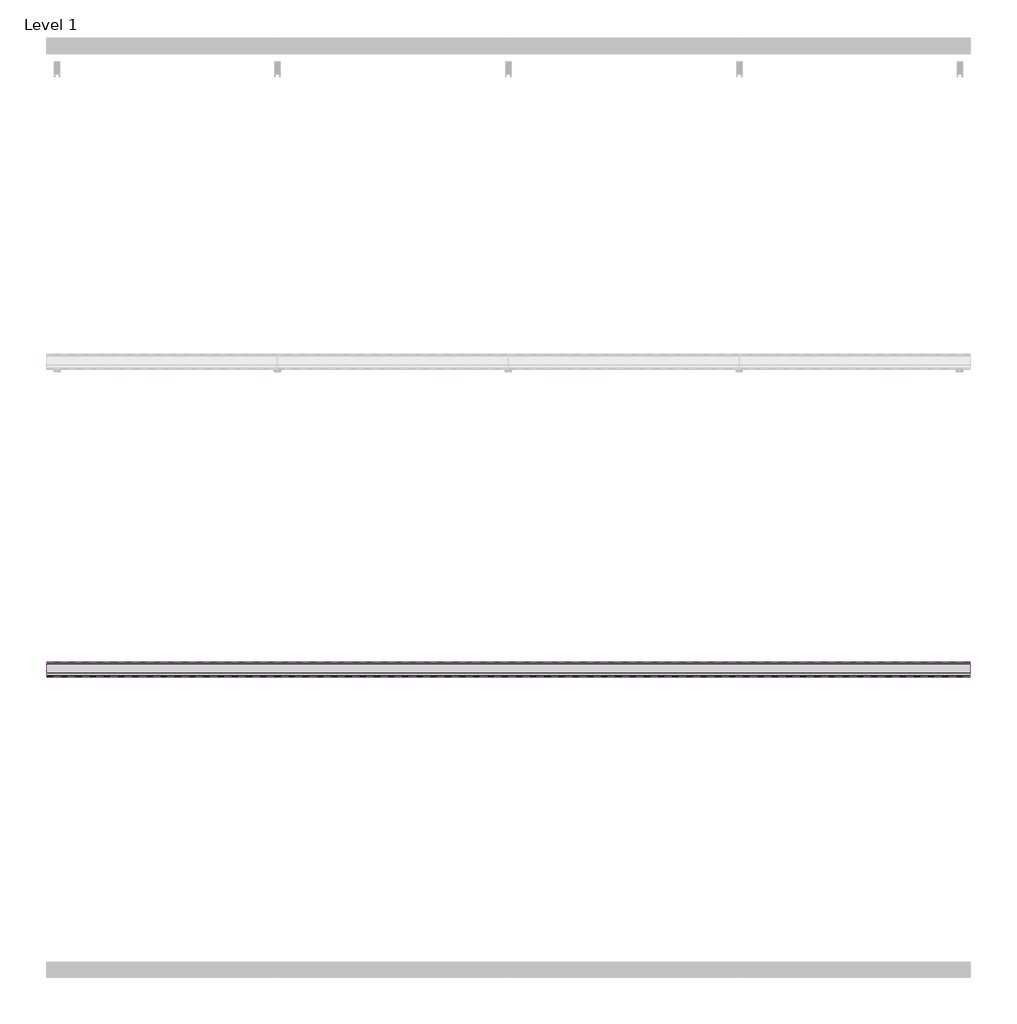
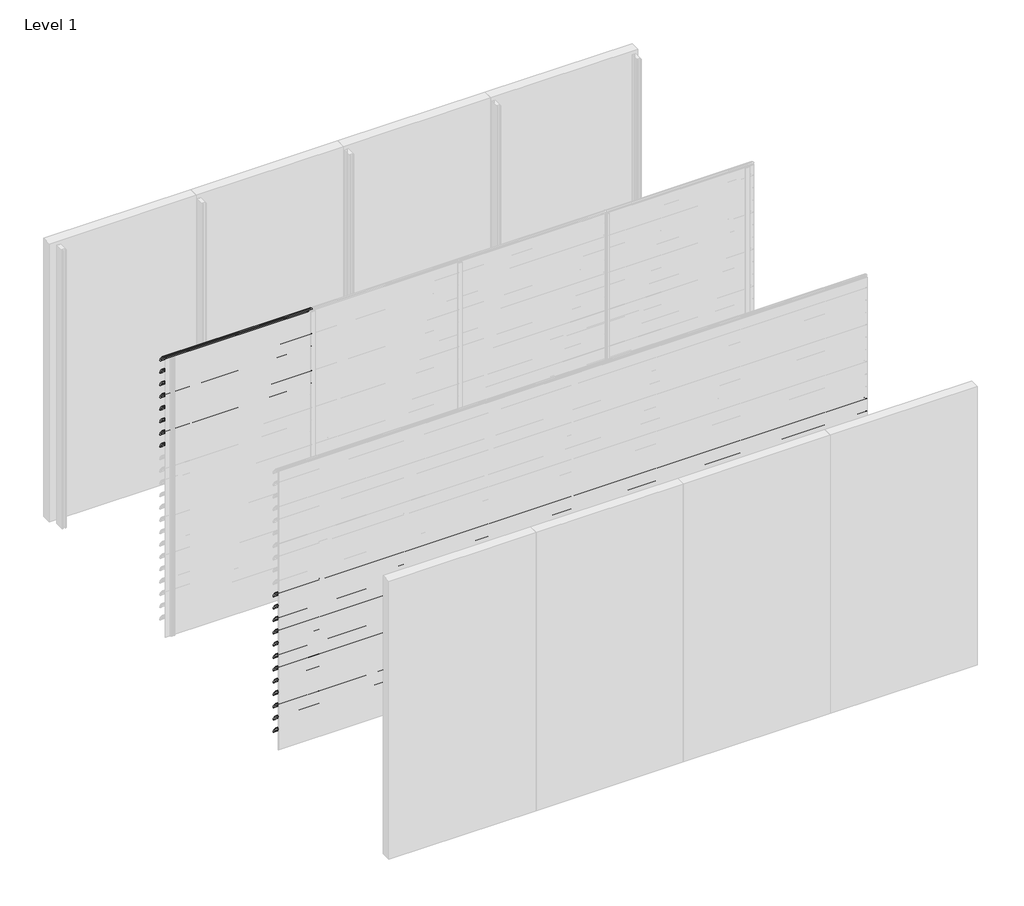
# One storey, part 31 of 57: 20 proxies.
"""IFC4 building model written with IfcOpenShell, lengths in millimetres."""

from ifc_helpers import new_model, si_unit, point, frame, frame_2d, origin, place, context, project, spatial, polyline, circle_curve, trimmed, segment, composite_curve, outline, extrude, element, save

model = new_model("IFC4")

# Units and contexts
model_context = context("Model", 3, world=origin())
ifc_project = project(units=[si_unit("LENGTHUNIT", "METRE", prefix="MILLI")], contexts=[model_context])

# Site, building, storey
site = spatial("IfcSite", under=ifc_project)
building = spatial("IfcBuilding", under=site)
storey = spatial("IfcBuildingStorey", under=building, Name="Level 1", Elevation=0.0)

# Proxies
placement = place(None, origin())
element("IfcBuildingElementProxy", 1, Name="Wall Sweeps", at=placement, inside=storey, context=model_context, shape_type="SweptSolid", body=[
    extrude(outline(composite_curve([segment(trimmed(circle_curve(frame_2d((-23993.7822526, 3016.4913792)), 4.2177474), [point((-23989.6985606, 3017.5462976))], [point((-23993.7822526, 3020.7091266))], False, "CARTESIAN"), True, "CONTINUOUS"), segment(trimmed(circle_curve(frame_2d((-24018.7150834, 2918.2536312)), 105.4456002), [point((-23993.7822526, 3020.7091266))], [point((-23971.7914298, 3012.6832099))], False, "CARTESIAN"), True, "CONTINUOUS"), segment(trimmed(circle_curve(frame_2d((-24061.7199745, 2864.0352476)), 173.7335887), [point((-23971.7914298, 3012.6832099))], [point((-23913.0720121, 2953.9637922))], False, "CARTESIAN"), True, "CONTINUOUS"), segment(trimmed(circle_curve(frame_2d((-24004.9297178, 2902.1860314)), 105.4456002), [point((-23913.0720121, 2953.9637922))], [point((-23903.6249616, 2931.4455765))], False, "CARTESIAN"), True, "CONTINUOUS"), segment(trimmed(circle_curve(frame_2d((-23907.809737, 2930.3307305)), 4.3307305), [point((-23903.6249616, 2931.4455765))], [point((-23909.0769196, 2926.189538))], False, "CARTESIAN"), True, "CONTINUOUS"), segment(polyline([(-23909.0769196, 2926.189538), (-23934.7401984, 2950.9722783)]), True, "CONTINUOUS"), segment(trimmed(circle_curve(frame_2d((-23931.3879574, 2953.2977626)), 4.079877), [point((-23934.7401984, 2950.9722783))], [point((-23930.7310597, 2957.3244091))], False, "CARTESIAN"), True, "CONTINUOUS"), segment(trimmed(circle_curve(frame_2d((-24014.6665585, 2935.2544323)), 86.7885467), [point((-23930.7310597, 2957.3244091))], [point((-23942.3028351, 2983.1683485))], True, "CARTESIAN"), True, "CONTINUOUS"), segment(polyline([(-23942.3028351, 2983.1683485), (-23940.7230099, 2985.9046861)]), True, "CONTINUOUS"), segment(trimmed(circle_curve(frame_2d((-24061.7199745, 2864.0352476)), 171.7335887), [point((-23940.7230099, 2985.9046861))], [point((-23972.7555872, 3010.9289618))], True, "CARTESIAN"), True, "CONTINUOUS"), segment(trimmed(circle_curve(frame_2d((-24018.7150834, 2918.2536312)), 103.4456002), [point((-23972.7555872, 3010.9289618))], [point((-23989.6985606, 3017.5462976))], True, "CARTESIAN"), True, "CONTINUOUS")], self_intersect=False)), frame((0.0, 0.0, 0.0), z_axis=(1.0, 0.0, 0.0), x_axis=(0.0, 1.0, 0.0)), (0.0, 0.0, 1.0), 1500.0),
])
element("IfcBuildingElementProxy", 2, Name="Wall Sweeps", at=placement, inside=storey, context=model_context, shape_type="SweptSolid", body=[
    extrude(outline(composite_curve([segment(trimmed(circle_curve(frame_2d((-23993.7822526, 2883.4913792)), 4.2177474), [point((-23989.6985606, 2884.5462976))], [point((-23993.7822526, 2887.7091266))], False, "CARTESIAN"), True, "CONTINUOUS"), segment(trimmed(circle_curve(frame_2d((-24018.7150834, 2785.2536312)), 105.4456002), [point((-23993.7822526, 2887.7091266))], [point((-23971.7914298, 2879.6832099))], False, "CARTESIAN"), True, "CONTINUOUS"), segment(trimmed(circle_curve(frame_2d((-24061.7199745, 2731.0352476)), 173.7335887), [point((-23971.7914298, 2879.6832099))], [point((-23913.0720121, 2820.9637922))], False, "CARTESIAN"), True, "CONTINUOUS"), segment(trimmed(circle_curve(frame_2d((-24004.9297178, 2769.1860314)), 105.4456002), [point((-23913.0720121, 2820.9637922))], [point((-23903.6249616, 2798.4455765))], False, "CARTESIAN"), True, "CONTINUOUS"), segment(trimmed(circle_curve(frame_2d((-23907.809737, 2797.3307305)), 4.3307305), [point((-23903.6249616, 2798.4455765))], [point((-23909.0769196, 2793.189538))], False, "CARTESIAN"), True, "CONTINUOUS"), segment(polyline([(-23909.0769196, 2793.189538), (-23934.7401984, 2817.9722783)]), True, "CONTINUOUS"), segment(trimmed(circle_curve(frame_2d((-23931.3879574, 2820.2977626)), 4.079877), [point((-23934.7401984, 2817.9722783))], [point((-23930.7310597, 2824.3244091))], False, "CARTESIAN"), True, "CONTINUOUS"), segment(trimmed(circle_curve(frame_2d((-24014.6665585, 2802.2544323)), 86.7885467), [point((-23930.7310597, 2824.3244091))], [point((-23942.3028351, 2850.1683485))], True, "CARTESIAN"), True, "CONTINUOUS"), segment(polyline([(-23942.3028351, 2850.1683485), (-23940.7230099, 2852.9046861)]), True, "CONTINUOUS"), segment(trimmed(circle_curve(frame_2d((-24061.7199745, 2731.0352476)), 171.7335887), [point((-23940.7230099, 2852.9046861))], [point((-23972.7555872, 2877.9289618))], True, "CARTESIAN"), True, "CONTINUOUS"), segment(trimmed(circle_curve(frame_2d((-24018.7150834, 2785.2536312)), 103.4456002), [point((-23972.7555872, 2877.9289618))], [point((-23989.6985606, 2884.5462976))], True, "CARTESIAN"), True, "CONTINUOUS")], self_intersect=False)), frame((0.0, 0.0, 0.0), z_axis=(1.0, 0.0, 0.0), x_axis=(0.0, 1.0, 0.0)), (0.0, 0.0, 1.0), 1500.0),
])
element("IfcBuildingElementProxy", 3, Name="Wall Sweeps", at=placement, inside=storey, context=model_context, shape_type="SweptSolid", body=[
    extrude(outline(composite_curve([segment(trimmed(circle_curve(frame_2d((-23993.7822526, 2750.4913792)), 4.2177474), [point((-23989.6985606, 2751.5462976))], [point((-23993.7822526, 2754.7091266))], False, "CARTESIAN"), True, "CONTINUOUS"), segment(trimmed(circle_curve(frame_2d((-24018.7150834, 2652.2536312)), 105.4456002), [point((-23993.7822526, 2754.7091266))], [point((-23971.7914298, 2746.6832099))], False, "CARTESIAN"), True, "CONTINUOUS"), segment(trimmed(circle_curve(frame_2d((-24061.7199745, 2598.0352476)), 173.7335887), [point((-23971.7914298, 2746.6832099))], [point((-23913.0720121, 2687.9637922))], False, "CARTESIAN"), True, "CONTINUOUS"), segment(trimmed(circle_curve(frame_2d((-24004.9297178, 2636.1860314)), 105.4456002), [point((-23913.0720121, 2687.9637922))], [point((-23903.6249616, 2665.4455765))], False, "CARTESIAN"), True, "CONTINUOUS"), segment(trimmed(circle_curve(frame_2d((-23907.809737, 2664.3307305)), 4.3307305), [point((-23903.6249616, 2665.4455765))], [point((-23909.0769196, 2660.189538))], False, "CARTESIAN"), True, "CONTINUOUS"), segment(polyline([(-23909.0769196, 2660.189538), (-23934.7401984, 2684.9722783)]), True, "CONTINUOUS"), segment(trimmed(circle_curve(frame_2d((-23931.3879574, 2687.2977626)), 4.079877), [point((-23934.7401984, 2684.9722783))], [point((-23930.7310597, 2691.3244091))], False, "CARTESIAN"), True, "CONTINUOUS"), segment(trimmed(circle_curve(frame_2d((-24014.6665585, 2669.2544323)), 86.7885467), [point((-23930.7310597, 2691.3244091))], [point((-23942.3028351, 2717.1683485))], True, "CARTESIAN"), True, "CONTINUOUS"), segment(polyline([(-23942.3028351, 2717.1683485), (-23940.7230099, 2719.9046861)]), True, "CONTINUOUS"), segment(trimmed(circle_curve(frame_2d((-24061.7199745, 2598.0352476)), 171.7335887), [point((-23940.7230099, 2719.9046861))], [point((-23972.7555872, 2744.9289618))], True, "CARTESIAN"), True, "CONTINUOUS"), segment(trimmed(circle_curve(frame_2d((-24018.7150834, 2652.2536312)), 103.4456002), [point((-23972.7555872, 2744.9289618))], [point((-23989.6985606, 2751.5462976))], True, "CARTESIAN"), True, "CONTINUOUS")], self_intersect=False)), frame((0.0, 0.0, 0.0), z_axis=(1.0, 0.0, 0.0), x_axis=(0.0, 1.0, 0.0)), (0.0, 0.0, 1.0), 1500.0),
])
element("IfcBuildingElementProxy", 4, Name="Wall Sweeps", at=placement, inside=storey, context=model_context, shape_type="SweptSolid", body=[
    extrude(outline(composite_curve([segment(trimmed(circle_curve(frame_2d((-23993.7822526, 2617.4913792)), 4.2177474), [point((-23989.6985606, 2618.5462976))], [point((-23993.7822526, 2621.7091266))], False, "CARTESIAN"), True, "CONTINUOUS"), segment(trimmed(circle_curve(frame_2d((-24018.7150834, 2519.2536312)), 105.4456002), [point((-23993.7822526, 2621.7091266))], [point((-23971.7914298, 2613.6832099))], False, "CARTESIAN"), True, "CONTINUOUS"), segment(trimmed(circle_curve(frame_2d((-24061.7199745, 2465.0352476)), 173.7335887), [point((-23971.7914298, 2613.6832099))], [point((-23913.0720121, 2554.9637922))], False, "CARTESIAN"), True, "CONTINUOUS"), segment(trimmed(circle_curve(frame_2d((-24004.9297178, 2503.1860314)), 105.4456002), [point((-23913.0720121, 2554.9637922))], [point((-23903.6249616, 2532.4455765))], False, "CARTESIAN"), True, "CONTINUOUS"), segment(trimmed(circle_curve(frame_2d((-23907.809737, 2531.3307305)), 4.3307305), [point((-23903.6249616, 2532.4455765))], [point((-23909.0769196, 2527.189538))], False, "CARTESIAN"), True, "CONTINUOUS"), segment(polyline([(-23909.0769196, 2527.189538), (-23934.7401984, 2551.9722783)]), True, "CONTINUOUS"), segment(trimmed(circle_curve(frame_2d((-23931.3879574, 2554.2977626)), 4.079877), [point((-23934.7401984, 2551.9722783))], [point((-23930.7310597, 2558.3244091))], False, "CARTESIAN"), True, "CONTINUOUS"), segment(trimmed(circle_curve(frame_2d((-24014.6665585, 2536.2544323)), 86.7885467), [point((-23930.7310597, 2558.3244091))], [point((-23942.3028351, 2584.1683485))], True, "CARTESIAN"), True, "CONTINUOUS"), segment(polyline([(-23942.3028351, 2584.1683485), (-23940.7230099, 2586.9046861)]), True, "CONTINUOUS"), segment(trimmed(circle_curve(frame_2d((-24061.7199745, 2465.0352476)), 171.7335887), [point((-23940.7230099, 2586.9046861))], [point((-23972.7555872, 2611.9289618))], True, "CARTESIAN"), True, "CONTINUOUS"), segment(trimmed(circle_curve(frame_2d((-24018.7150834, 2519.2536312)), 103.4456002), [point((-23972.7555872, 2611.9289618))], [point((-23989.6985606, 2618.5462976))], True, "CARTESIAN"), True, "CONTINUOUS")], self_intersect=False)), frame((0.0, 0.0, 0.0), z_axis=(1.0, 0.0, 0.0), x_axis=(0.0, 1.0, 0.0)), (0.0, 0.0, 1.0), 1500.0),
])
element("IfcBuildingElementProxy", 5, Name="Wall Sweeps", at=placement, inside=storey, context=model_context, shape_type="SweptSolid", body=[
    extrude(outline(composite_curve([segment(trimmed(circle_curve(frame_2d((-23993.7822526, 2484.4913792)), 4.2177474), [point((-23989.6985606, 2485.5462976))], [point((-23993.7822526, 2488.7091266))], False, "CARTESIAN"), True, "CONTINUOUS"), segment(trimmed(circle_curve(frame_2d((-24018.7150834, 2386.2536312)), 105.4456002), [point((-23993.7822526, 2488.7091266))], [point((-23971.7914298, 2480.6832099))], False, "CARTESIAN"), True, "CONTINUOUS"), segment(trimmed(circle_curve(frame_2d((-24061.7199745, 2332.0352476)), 173.7335887), [point((-23971.7914298, 2480.6832099))], [point((-23913.0720121, 2421.9637922))], False, "CARTESIAN"), True, "CONTINUOUS"), segment(trimmed(circle_curve(frame_2d((-24004.9297178, 2370.1860314)), 105.4456002), [point((-23913.0720121, 2421.9637922))], [point((-23903.6249616, 2399.4455765))], False, "CARTESIAN"), True, "CONTINUOUS"), segment(trimmed(circle_curve(frame_2d((-23907.809737, 2398.3307305)), 4.3307305), [point((-23903.6249616, 2399.4455765))], [point((-23909.0769196, 2394.189538))], False, "CARTESIAN"), True, "CONTINUOUS"), segment(polyline([(-23909.0769196, 2394.189538), (-23934.7401984, 2418.9722783)]), True, "CONTINUOUS"), segment(trimmed(circle_curve(frame_2d((-23931.3879574, 2421.2977626)), 4.079877), [point((-23934.7401984, 2418.9722783))], [point((-23930.7310597, 2425.3244091))], False, "CARTESIAN"), True, "CONTINUOUS"), segment(trimmed(circle_curve(frame_2d((-24014.6665585, 2403.2544323)), 86.7885467), [point((-23930.7310597, 2425.3244091))], [point((-23942.3028351, 2451.1683485))], True, "CARTESIAN"), True, "CONTINUOUS"), segment(polyline([(-23942.3028351, 2451.1683485), (-23940.7230099, 2453.9046861)]), True, "CONTINUOUS"), segment(trimmed(circle_curve(frame_2d((-24061.7199745, 2332.0352476)), 171.7335887), [point((-23940.7230099, 2453.9046861))], [point((-23972.7555872, 2478.9289618))], True, "CARTESIAN"), True, "CONTINUOUS"), segment(trimmed(circle_curve(frame_2d((-24018.7150834, 2386.2536312)), 103.4456002), [point((-23972.7555872, 2478.9289618))], [point((-23989.6985606, 2485.5462976))], True, "CARTESIAN"), True, "CONTINUOUS")], self_intersect=False)), frame((0.0, 0.0, 0.0), z_axis=(1.0, 0.0, 0.0), x_axis=(0.0, 1.0, 0.0)), (0.0, 0.0, 1.0), 1500.0),
])
element("IfcBuildingElementProxy", 6, Name="Wall Sweeps", at=placement, inside=storey, context=model_context, shape_type="SweptSolid", body=[
    extrude(outline(composite_curve([segment(trimmed(circle_curve(frame_2d((-23993.7822526, 2351.4913792)), 4.2177474), [point((-23989.6985606, 2352.5462976))], [point((-23993.7822526, 2355.7091266))], False, "CARTESIAN"), True, "CONTINUOUS"), segment(trimmed(circle_curve(frame_2d((-24018.7150834, 2253.2536312)), 105.4456002), [point((-23993.7822526, 2355.7091266))], [point((-23971.7914298, 2347.6832099))], False, "CARTESIAN"), True, "CONTINUOUS"), segment(trimmed(circle_curve(frame_2d((-24061.7199745, 2199.0352476)), 173.7335887), [point((-23971.7914298, 2347.6832099))], [point((-23913.0720121, 2288.9637922))], False, "CARTESIAN"), True, "CONTINUOUS"), segment(trimmed(circle_curve(frame_2d((-24004.9297178, 2237.1860314)), 105.4456002), [point((-23913.0720121, 2288.9637922))], [point((-23903.6249616, 2266.4455765))], False, "CARTESIAN"), True, "CONTINUOUS"), segment(trimmed(circle_curve(frame_2d((-23907.809737, 2265.3307305)), 4.3307305), [point((-23903.6249616, 2266.4455765))], [point((-23909.0769196, 2261.189538))], False, "CARTESIAN"), True, "CONTINUOUS"), segment(polyline([(-23909.0769196, 2261.189538), (-23934.7401984, 2285.9722783)]), True, "CONTINUOUS"), segment(trimmed(circle_curve(frame_2d((-23931.3879574, 2288.2977626)), 4.079877), [point((-23934.7401984, 2285.9722783))], [point((-23930.7310597, 2292.3244091))], False, "CARTESIAN"), True, "CONTINUOUS"), segment(trimmed(circle_curve(frame_2d((-24014.6665585, 2270.2544323)), 86.7885467), [point((-23930.7310597, 2292.3244091))], [point((-23942.3028351, 2318.1683485))], True, "CARTESIAN"), True, "CONTINUOUS"), segment(polyline([(-23942.3028351, 2318.1683485), (-23940.7230099, 2320.9046861)]), True, "CONTINUOUS"), segment(trimmed(circle_curve(frame_2d((-24061.7199745, 2199.0352476)), 171.7335887), [point((-23940.7230099, 2320.9046861))], [point((-23972.7555872, 2345.9289618))], True, "CARTESIAN"), True, "CONTINUOUS"), segment(trimmed(circle_curve(frame_2d((-24018.7150834, 2253.2536312)), 103.4456002), [point((-23972.7555872, 2345.9289618))], [point((-23989.6985606, 2352.5462976))], True, "CARTESIAN"), True, "CONTINUOUS")], self_intersect=False)), frame((0.0, 0.0, 0.0), z_axis=(1.0, 0.0, 0.0), x_axis=(0.0, 1.0, 0.0)), (0.0, 0.0, 1.0), 1500.0),
])
element("IfcBuildingElementProxy", 7, Name="Wall Sweeps", at=placement, inside=storey, context=model_context, shape_type="SweptSolid", body=[
    extrude(outline(composite_curve([segment(trimmed(circle_curve(frame_2d((-23993.7822526, 2218.4913792)), 4.2177474), [point((-23989.6985606, 2219.5462976))], [point((-23993.7822526, 2222.7091266))], False, "CARTESIAN"), True, "CONTINUOUS"), segment(trimmed(circle_curve(frame_2d((-24018.7150834, 2120.2536312)), 105.4456002), [point((-23993.7822526, 2222.7091266))], [point((-23971.7914298, 2214.6832099))], False, "CARTESIAN"), True, "CONTINUOUS"), segment(trimmed(circle_curve(frame_2d((-24061.7199745, 2066.0352476)), 173.7335887), [point((-23971.7914298, 2214.6832099))], [point((-23913.0720121, 2155.9637922))], False, "CARTESIAN"), True, "CONTINUOUS"), segment(trimmed(circle_curve(frame_2d((-24004.9297178, 2104.1860314)), 105.4456002), [point((-23913.0720121, 2155.9637922))], [point((-23903.6249616, 2133.4455765))], False, "CARTESIAN"), True, "CONTINUOUS"), segment(trimmed(circle_curve(frame_2d((-23907.809737, 2132.3307305)), 4.3307305), [point((-23903.6249616, 2133.4455765))], [point((-23909.0769196, 2128.189538))], False, "CARTESIAN"), True, "CONTINUOUS"), segment(polyline([(-23909.0769196, 2128.189538), (-23934.7401984, 2152.9722783)]), True, "CONTINUOUS"), segment(trimmed(circle_curve(frame_2d((-23931.3879574, 2155.2977626)), 4.079877), [point((-23934.7401984, 2152.9722783))], [point((-23930.7310597, 2159.3244091))], False, "CARTESIAN"), True, "CONTINUOUS"), segment(trimmed(circle_curve(frame_2d((-24014.6665585, 2137.2544323)), 86.7885467), [point((-23930.7310597, 2159.3244091))], [point((-23942.3028351, 2185.1683485))], True, "CARTESIAN"), True, "CONTINUOUS"), segment(polyline([(-23942.3028351, 2185.1683485), (-23940.7230099, 2187.9046861)]), True, "CONTINUOUS"), segment(trimmed(circle_curve(frame_2d((-24061.7199745, 2066.0352476)), 171.7335887), [point((-23940.7230099, 2187.9046861))], [point((-23972.7555872, 2212.9289618))], True, "CARTESIAN"), True, "CONTINUOUS"), segment(trimmed(circle_curve(frame_2d((-24018.7150834, 2120.2536312)), 103.4456002), [point((-23972.7555872, 2212.9289618))], [point((-23989.6985606, 2219.5462976))], True, "CARTESIAN"), True, "CONTINUOUS")], self_intersect=False)), frame((0.0, 0.0, 0.0), z_axis=(1.0, 0.0, 0.0), x_axis=(0.0, 1.0, 0.0)), (0.0, 0.0, 1.0), 1500.0),
])
element("IfcBuildingElementProxy", 8, Name="Wall Sweeps", at=placement, inside=storey, context=model_context, shape_type="SweptSolid", body=[
    extrude(outline(composite_curve([segment(trimmed(circle_curve(frame_2d((-23993.7822526, 2085.4913792)), 4.2177474), [point((-23989.6985606, 2086.5462976))], [point((-23993.7822526, 2089.7091266))], False, "CARTESIAN"), True, "CONTINUOUS"), segment(trimmed(circle_curve(frame_2d((-24018.7150834, 1987.2536312)), 105.4456002), [point((-23993.7822526, 2089.7091266))], [point((-23971.7914298, 2081.6832099))], False, "CARTESIAN"), True, "CONTINUOUS"), segment(trimmed(circle_curve(frame_2d((-24061.7199745, 1933.0352476)), 173.7335887), [point((-23971.7914298, 2081.6832099))], [point((-23913.0720121, 2022.9637922))], False, "CARTESIAN"), True, "CONTINUOUS"), segment(trimmed(circle_curve(frame_2d((-24004.9297178, 1971.1860314)), 105.4456002), [point((-23913.0720121, 2022.9637922))], [point((-23903.6249616, 2000.4455765))], False, "CARTESIAN"), True, "CONTINUOUS"), segment(trimmed(circle_curve(frame_2d((-23907.809737, 1999.3307305)), 4.3307305), [point((-23903.6249616, 2000.4455765))], [point((-23909.0769196, 1995.189538))], False, "CARTESIAN"), True, "CONTINUOUS"), segment(polyline([(-23909.0769196, 1995.189538), (-23934.7401984, 2019.9722783)]), True, "CONTINUOUS"), segment(trimmed(circle_curve(frame_2d((-23931.3879574, 2022.2977626)), 4.079877), [point((-23934.7401984, 2019.9722783))], [point((-23930.7310597, 2026.3244091))], False, "CARTESIAN"), True, "CONTINUOUS"), segment(trimmed(circle_curve(frame_2d((-24014.6665585, 2004.2544323)), 86.7885467), [point((-23930.7310597, 2026.3244091))], [point((-23942.3028351, 2052.1683485))], True, "CARTESIAN"), True, "CONTINUOUS"), segment(polyline([(-23942.3028351, 2052.1683485), (-23940.7230099, 2054.9046861)]), True, "CONTINUOUS"), segment(trimmed(circle_curve(frame_2d((-24061.7199745, 1933.0352476)), 171.7335887), [point((-23940.7230099, 2054.9046861))], [point((-23972.7555872, 2079.9289618))], True, "CARTESIAN"), True, "CONTINUOUS"), segment(trimmed(circle_curve(frame_2d((-24018.7150834, 1987.2536312)), 103.4456002), [point((-23972.7555872, 2079.9289618))], [point((-23989.6985606, 2086.5462976))], True, "CARTESIAN"), True, "CONTINUOUS")], self_intersect=False)), frame((0.0, 0.0, 0.0), z_axis=(1.0, 0.0, 0.0), x_axis=(0.0, 1.0, 0.0)), (0.0, 0.0, 1.0), 1500.0),
])
element("IfcBuildingElementProxy", 9, Name="Wall Sweeps", at=placement, inside=storey, context=model_context, shape_type="SweptSolid", body=[
    extrude(outline(composite_curve([segment(trimmed(circle_curve(frame_2d((-25993.7822526, 1686.4913792)), 4.2177474), [point((-25989.6985606, 1687.5462976))], [point((-25993.7822526, 1690.7091266))], False, "CARTESIAN"), True, "CONTINUOUS"), segment(trimmed(circle_curve(frame_2d((-26018.7150834, 1588.2536312)), 105.4456002), [point((-25993.7822526, 1690.7091266))], [point((-25971.7914298, 1682.6832099))], False, "CARTESIAN"), True, "CONTINUOUS"), segment(trimmed(circle_curve(frame_2d((-26061.7199745, 1534.0352476)), 173.7335887), [point((-25971.7914298, 1682.6832099))], [point((-25913.0720121, 1623.9637922))], False, "CARTESIAN"), True, "CONTINUOUS"), segment(trimmed(circle_curve(frame_2d((-26004.9297178, 1572.1860314)), 105.4456002), [point((-25913.0720121, 1623.9637922))], [point((-25903.6249616, 1601.4455765))], False, "CARTESIAN"), True, "CONTINUOUS"), segment(trimmed(circle_curve(frame_2d((-25907.809737, 1600.3307305)), 4.3307305), [point((-25903.6249616, 1601.4455765))], [point((-25909.0769196, 1596.189538))], False, "CARTESIAN"), True, "CONTINUOUS"), segment(polyline([(-25909.0769196, 1596.189538), (-25934.7401984, 1620.9722783)]), True, "CONTINUOUS"), segment(trimmed(circle_curve(frame_2d((-25931.3879574, 1623.2977626)), 4.079877), [point((-25934.7401984, 1620.9722783))], [point((-25930.7310597, 1627.3244091))], False, "CARTESIAN"), True, "CONTINUOUS"), segment(trimmed(circle_curve(frame_2d((-26014.6665585, 1605.2544323)), 86.7885467), [point((-25930.7310597, 1627.3244091))], [point((-25942.3028351, 1653.1683485))], True, "CARTESIAN"), True, "CONTINUOUS"), segment(polyline([(-25942.3028351, 1653.1683485), (-25940.7230099, 1655.9046861)]), True, "CONTINUOUS"), segment(trimmed(circle_curve(frame_2d((-26061.7199745, 1534.0352476)), 171.7335887), [point((-25940.7230099, 1655.9046861))], [point((-25972.7555872, 1680.9289618))], True, "CARTESIAN"), True, "CONTINUOUS"), segment(trimmed(circle_curve(frame_2d((-26018.7150834, 1588.2536312)), 103.4456002), [point((-25972.7555872, 1680.9289618))], [point((-25989.6985606, 1687.5462976))], True, "CARTESIAN"), True, "CONTINUOUS")], self_intersect=False)), frame((0.0, 0.0, 0.0), z_axis=(1.0, 0.0, 0.0), x_axis=(0.0, 1.0, 0.0)), (0.0, 0.0, 1.0), 6000.0),
])
element("IfcBuildingElementProxy", 10, Name="Wall Sweeps", at=placement, inside=storey, context=model_context, shape_type="SweptSolid", body=[
    extrude(outline(composite_curve([segment(trimmed(circle_curve(frame_2d((-25993.7822526, 1553.4913792)), 4.2177474), [point((-25989.6985606, 1554.5462976))], [point((-25993.7822526, 1557.7091266))], False, "CARTESIAN"), True, "CONTINUOUS"), segment(trimmed(circle_curve(frame_2d((-26018.7150834, 1455.2536312)), 105.4456002), [point((-25993.7822526, 1557.7091266))], [point((-25971.7914298, 1549.6832099))], False, "CARTESIAN"), True, "CONTINUOUS"), segment(trimmed(circle_curve(frame_2d((-26061.7199745, 1401.0352476)), 173.7335887), [point((-25971.7914298, 1549.6832099))], [point((-25913.0720121, 1490.9637922))], False, "CARTESIAN"), True, "CONTINUOUS"), segment(trimmed(circle_curve(frame_2d((-26004.9297178, 1439.1860314)), 105.4456002), [point((-25913.0720121, 1490.9637922))], [point((-25903.6249616, 1468.4455765))], False, "CARTESIAN"), True, "CONTINUOUS"), segment(trimmed(circle_curve(frame_2d((-25907.809737, 1467.3307305)), 4.3307305), [point((-25903.6249616, 1468.4455765))], [point((-25909.0769196, 1463.189538))], False, "CARTESIAN"), True, "CONTINUOUS"), segment(polyline([(-25909.0769196, 1463.189538), (-25934.7401984, 1487.9722783)]), True, "CONTINUOUS"), segment(trimmed(circle_curve(frame_2d((-25931.3879574, 1490.2977626)), 4.079877), [point((-25934.7401984, 1487.9722783))], [point((-25930.7310597, 1494.3244091))], False, "CARTESIAN"), True, "CONTINUOUS"), segment(trimmed(circle_curve(frame_2d((-26014.6665585, 1472.2544323)), 86.7885467), [point((-25930.7310597, 1494.3244091))], [point((-25942.3028351, 1520.1683485))], True, "CARTESIAN"), True, "CONTINUOUS"), segment(polyline([(-25942.3028351, 1520.1683485), (-25940.7230099, 1522.9046861)]), True, "CONTINUOUS"), segment(trimmed(circle_curve(frame_2d((-26061.7199745, 1401.0352476)), 171.7335887), [point((-25940.7230099, 1522.9046861))], [point((-25972.7555872, 1547.9289618))], True, "CARTESIAN"), True, "CONTINUOUS"), segment(trimmed(circle_curve(frame_2d((-26018.7150834, 1455.2536312)), 103.4456002), [point((-25972.7555872, 1547.9289618))], [point((-25989.6985606, 1554.5462976))], True, "CARTESIAN"), True, "CONTINUOUS")], self_intersect=False)), frame((0.0, 0.0, 0.0), z_axis=(1.0, 0.0, 0.0), x_axis=(0.0, 1.0, 0.0)), (0.0, 0.0, 1.0), 6000.0),
])
element("IfcBuildingElementProxy", 11, Name="Wall Sweeps", at=placement, inside=storey, context=model_context, shape_type="SweptSolid", body=[
    extrude(outline(composite_curve([segment(trimmed(circle_curve(frame_2d((-25993.7822526, 1420.4913792)), 4.2177474), [point((-25989.6985606, 1421.5462976))], [point((-25993.7822526, 1424.7091266))], False, "CARTESIAN"), True, "CONTINUOUS"), segment(trimmed(circle_curve(frame_2d((-26018.7150834, 1322.2536312)), 105.4456002), [point((-25993.7822526, 1424.7091266))], [point((-25971.7914298, 1416.6832099))], False, "CARTESIAN"), True, "CONTINUOUS"), segment(trimmed(circle_curve(frame_2d((-26061.7199745, 1268.0352476)), 173.7335887), [point((-25971.7914298, 1416.6832099))], [point((-25913.0720121, 1357.9637922))], False, "CARTESIAN"), True, "CONTINUOUS"), segment(trimmed(circle_curve(frame_2d((-26004.9297178, 1306.1860314)), 105.4456002), [point((-25913.0720121, 1357.9637922))], [point((-25903.6249616, 1335.4455765))], False, "CARTESIAN"), True, "CONTINUOUS"), segment(trimmed(circle_curve(frame_2d((-25907.809737, 1334.3307305)), 4.3307305), [point((-25903.6249616, 1335.4455765))], [point((-25909.0769196, 1330.189538))], False, "CARTESIAN"), True, "CONTINUOUS"), segment(polyline([(-25909.0769196, 1330.189538), (-25934.7401984, 1354.9722783)]), True, "CONTINUOUS"), segment(trimmed(circle_curve(frame_2d((-25931.3879574, 1357.2977626)), 4.079877), [point((-25934.7401984, 1354.9722783))], [point((-25930.7310597, 1361.3244091))], False, "CARTESIAN"), True, "CONTINUOUS"), segment(trimmed(circle_curve(frame_2d((-26014.6665585, 1339.2544323)), 86.7885467), [point((-25930.7310597, 1361.3244091))], [point((-25942.3028351, 1387.1683485))], True, "CARTESIAN"), True, "CONTINUOUS"), segment(polyline([(-25942.3028351, 1387.1683485), (-25940.7230099, 1389.9046861)]), True, "CONTINUOUS"), segment(trimmed(circle_curve(frame_2d((-26061.7199745, 1268.0352476)), 171.7335887), [point((-25940.7230099, 1389.9046861))], [point((-25972.7555872, 1414.9289618))], True, "CARTESIAN"), True, "CONTINUOUS"), segment(trimmed(circle_curve(frame_2d((-26018.7150834, 1322.2536312)), 103.4456002), [point((-25972.7555872, 1414.9289618))], [point((-25989.6985606, 1421.5462976))], True, "CARTESIAN"), True, "CONTINUOUS")], self_intersect=False)), frame((0.0, 0.0, 0.0), z_axis=(1.0, 0.0, 0.0), x_axis=(0.0, 1.0, 0.0)), (0.0, 0.0, 1.0), 6000.0),
])
element("IfcBuildingElementProxy", 12, Name="Wall Sweeps", at=placement, inside=storey, context=model_context, shape_type="SweptSolid", body=[
    extrude(outline(composite_curve([segment(trimmed(circle_curve(frame_2d((-25993.7822526, 1287.4913792)), 4.2177474), [point((-25989.6985606, 1288.5462976))], [point((-25993.7822526, 1291.7091266))], False, "CARTESIAN"), True, "CONTINUOUS"), segment(trimmed(circle_curve(frame_2d((-26018.7150834, 1189.2536312)), 105.4456002), [point((-25993.7822526, 1291.7091266))], [point((-25971.7914298, 1283.6832099))], False, "CARTESIAN"), True, "CONTINUOUS"), segment(trimmed(circle_curve(frame_2d((-26061.7199745, 1135.0352476)), 173.7335887), [point((-25971.7914298, 1283.6832099))], [point((-25913.0720121, 1224.9637922))], False, "CARTESIAN"), True, "CONTINUOUS"), segment(trimmed(circle_curve(frame_2d((-26004.9297178, 1173.1860314)), 105.4456002), [point((-25913.0720121, 1224.9637922))], [point((-25903.6249616, 1202.4455765))], False, "CARTESIAN"), True, "CONTINUOUS"), segment(trimmed(circle_curve(frame_2d((-25907.809737, 1201.3307305)), 4.3307305), [point((-25903.6249616, 1202.4455765))], [point((-25909.0769196, 1197.189538))], False, "CARTESIAN"), True, "CONTINUOUS"), segment(polyline([(-25909.0769196, 1197.189538), (-25934.7401984, 1221.9722783)]), True, "CONTINUOUS"), segment(trimmed(circle_curve(frame_2d((-25931.3879574, 1224.2977626)), 4.079877), [point((-25934.7401984, 1221.9722783))], [point((-25930.7310597, 1228.3244091))], False, "CARTESIAN"), True, "CONTINUOUS"), segment(trimmed(circle_curve(frame_2d((-26014.6665585, 1206.2544323)), 86.7885467), [point((-25930.7310597, 1228.3244091))], [point((-25942.3028351, 1254.1683485))], True, "CARTESIAN"), True, "CONTINUOUS"), segment(polyline([(-25942.3028351, 1254.1683485), (-25940.7230099, 1256.9046861)]), True, "CONTINUOUS"), segment(trimmed(circle_curve(frame_2d((-26061.7199745, 1135.0352476)), 171.7335887), [point((-25940.7230099, 1256.9046861))], [point((-25972.7555872, 1281.9289618))], True, "CARTESIAN"), True, "CONTINUOUS"), segment(trimmed(circle_curve(frame_2d((-26018.7150834, 1189.2536312)), 103.4456002), [point((-25972.7555872, 1281.9289618))], [point((-25989.6985606, 1288.5462976))], True, "CARTESIAN"), True, "CONTINUOUS")], self_intersect=False)), frame((0.0, 0.0, 0.0), z_axis=(1.0, 0.0, 0.0), x_axis=(0.0, 1.0, 0.0)), (0.0, 0.0, 1.0), 6000.0),
])
element("IfcBuildingElementProxy", 13, Name="Wall Sweeps", at=placement, inside=storey, context=model_context, shape_type="SweptSolid", body=[
    extrude(outline(composite_curve([segment(trimmed(circle_curve(frame_2d((-25993.7822526, 1154.4913792)), 4.2177474), [point((-25989.6985606, 1155.5462976))], [point((-25993.7822526, 1158.7091266))], False, "CARTESIAN"), True, "CONTINUOUS"), segment(trimmed(circle_curve(frame_2d((-26018.7150834, 1056.2536312)), 105.4456002), [point((-25993.7822526, 1158.7091266))], [point((-25971.7914298, 1150.6832099))], False, "CARTESIAN"), True, "CONTINUOUS"), segment(trimmed(circle_curve(frame_2d((-26061.7199745, 1002.0352476)), 173.7335887), [point((-25971.7914298, 1150.6832099))], [point((-25913.0720121, 1091.9637922))], False, "CARTESIAN"), True, "CONTINUOUS"), segment(trimmed(circle_curve(frame_2d((-26004.9297178, 1040.1860314)), 105.4456002), [point((-25913.0720121, 1091.9637922))], [point((-25903.6249616, 1069.4455765))], False, "CARTESIAN"), True, "CONTINUOUS"), segment(trimmed(circle_curve(frame_2d((-25907.809737, 1068.3307305)), 4.3307305), [point((-25903.6249616, 1069.4455765))], [point((-25909.0769196, 1064.189538))], False, "CARTESIAN"), True, "CONTINUOUS"), segment(polyline([(-25909.0769196, 1064.189538), (-25934.7401984, 1088.9722783)]), True, "CONTINUOUS"), segment(trimmed(circle_curve(frame_2d((-25931.3879574, 1091.2977626)), 4.079877), [point((-25934.7401984, 1088.9722783))], [point((-25930.7310597, 1095.3244091))], False, "CARTESIAN"), True, "CONTINUOUS"), segment(trimmed(circle_curve(frame_2d((-26014.6665585, 1073.2544323)), 86.7885467), [point((-25930.7310597, 1095.3244091))], [point((-25942.3028351, 1121.1683485))], True, "CARTESIAN"), True, "CONTINUOUS"), segment(polyline([(-25942.3028351, 1121.1683485), (-25940.7230099, 1123.9046861)]), True, "CONTINUOUS"), segment(trimmed(circle_curve(frame_2d((-26061.7199745, 1002.0352476)), 171.7335887), [point((-25940.7230099, 1123.9046861))], [point((-25972.7555872, 1148.9289618))], True, "CARTESIAN"), True, "CONTINUOUS"), segment(trimmed(circle_curve(frame_2d((-26018.7150834, 1056.2536312)), 103.4456002), [point((-25972.7555872, 1148.9289618))], [point((-25989.6985606, 1155.5462976))], True, "CARTESIAN"), True, "CONTINUOUS")], self_intersect=False)), frame((0.0, 0.0, 0.0), z_axis=(1.0, 0.0, 0.0), x_axis=(0.0, 1.0, 0.0)), (0.0, 0.0, 1.0), 6000.0),
])
element("IfcBuildingElementProxy", 14, Name="Wall Sweeps", at=placement, inside=storey, context=model_context, shape_type="SweptSolid", body=[
    extrude(outline(composite_curve([segment(trimmed(circle_curve(frame_2d((-25993.7822526, 1021.4913792)), 4.2177474), [point((-25989.6985606, 1022.5462976))], [point((-25993.7822526, 1025.7091266))], False, "CARTESIAN"), True, "CONTINUOUS"), segment(trimmed(circle_curve(frame_2d((-26018.7150834, 923.2536312)), 105.4456002), [point((-25993.7822526, 1025.7091266))], [point((-25971.7914298, 1017.6832099))], False, "CARTESIAN"), True, "CONTINUOUS"), segment(trimmed(circle_curve(frame_2d((-26061.7199745, 869.0352476)), 173.7335887), [point((-25971.7914298, 1017.6832099))], [point((-25913.0720121, 958.9637922))], False, "CARTESIAN"), True, "CONTINUOUS"), segment(trimmed(circle_curve(frame_2d((-26004.9297178, 907.1860314)), 105.4456002), [point((-25913.0720121, 958.9637922))], [point((-25903.6249616, 936.4455765))], False, "CARTESIAN"), True, "CONTINUOUS"), segment(trimmed(circle_curve(frame_2d((-25907.809737, 935.3307305)), 4.3307305), [point((-25903.6249616, 936.4455765))], [point((-25909.0769196, 931.189538))], False, "CARTESIAN"), True, "CONTINUOUS"), segment(polyline([(-25909.0769196, 931.189538), (-25934.7401984, 955.9722783)]), True, "CONTINUOUS"), segment(trimmed(circle_curve(frame_2d((-25931.3879574, 958.2977626)), 4.079877), [point((-25934.7401984, 955.9722783))], [point((-25930.7310597, 962.3244091))], False, "CARTESIAN"), True, "CONTINUOUS"), segment(trimmed(circle_curve(frame_2d((-26014.6665585, 940.2544323)), 86.7885467), [point((-25930.7310597, 962.3244091))], [point((-25942.3028351, 988.1683485))], True, "CARTESIAN"), True, "CONTINUOUS"), segment(polyline([(-25942.3028351, 988.1683485), (-25940.7230099, 990.9046861)]), True, "CONTINUOUS"), segment(trimmed(circle_curve(frame_2d((-26061.7199745, 869.0352476)), 171.7335887), [point((-25940.7230099, 990.9046861))], [point((-25972.7555872, 1015.9289618))], True, "CARTESIAN"), True, "CONTINUOUS"), segment(trimmed(circle_curve(frame_2d((-26018.7150834, 923.2536312)), 103.4456002), [point((-25972.7555872, 1015.9289618))], [point((-25989.6985606, 1022.5462976))], True, "CARTESIAN"), True, "CONTINUOUS")], self_intersect=False)), frame((0.0, 0.0, 0.0), z_axis=(1.0, 0.0, 0.0), x_axis=(0.0, 1.0, 0.0)), (0.0, 0.0, 1.0), 6000.0),
])
element("IfcBuildingElementProxy", 15, Name="Wall Sweeps", at=placement, inside=storey, context=model_context, shape_type="SweptSolid", body=[
    extrude(outline(composite_curve([segment(trimmed(circle_curve(frame_2d((-25993.7822526, 888.4913792)), 4.2177474), [point((-25989.6985606, 889.5462976))], [point((-25993.7822526, 892.7091266))], False, "CARTESIAN"), True, "CONTINUOUS"), segment(trimmed(circle_curve(frame_2d((-26018.7150834, 790.2536312)), 105.4456002), [point((-25993.7822526, 892.7091266))], [point((-25971.7914298, 884.6832099))], False, "CARTESIAN"), True, "CONTINUOUS"), segment(trimmed(circle_curve(frame_2d((-26061.7199745, 736.0352476)), 173.7335887), [point((-25971.7914298, 884.6832099))], [point((-25913.0720121, 825.9637922))], False, "CARTESIAN"), True, "CONTINUOUS"), segment(trimmed(circle_curve(frame_2d((-26004.9297178, 774.1860314)), 105.4456002), [point((-25913.0720121, 825.9637922))], [point((-25903.6249616, 803.4455765))], False, "CARTESIAN"), True, "CONTINUOUS"), segment(trimmed(circle_curve(frame_2d((-25907.809737, 802.3307305)), 4.3307305), [point((-25903.6249616, 803.4455765))], [point((-25909.0769196, 798.189538))], False, "CARTESIAN"), True, "CONTINUOUS"), segment(polyline([(-25909.0769196, 798.189538), (-25934.7401984, 822.9722783)]), True, "CONTINUOUS"), segment(trimmed(circle_curve(frame_2d((-25931.3879574, 825.2977626)), 4.079877), [point((-25934.7401984, 822.9722783))], [point((-25930.7310597, 829.3244091))], False, "CARTESIAN"), True, "CONTINUOUS"), segment(trimmed(circle_curve(frame_2d((-26014.6665585, 807.2544323)), 86.7885467), [point((-25930.7310597, 829.3244091))], [point((-25942.3028351, 855.1683485))], True, "CARTESIAN"), True, "CONTINUOUS"), segment(polyline([(-25942.3028351, 855.1683485), (-25940.7230099, 857.9046861)]), True, "CONTINUOUS"), segment(trimmed(circle_curve(frame_2d((-26061.7199745, 736.0352476)), 171.7335887), [point((-25940.7230099, 857.9046861))], [point((-25972.7555872, 882.9289618))], True, "CARTESIAN"), True, "CONTINUOUS"), segment(trimmed(circle_curve(frame_2d((-26018.7150834, 790.2536312)), 103.4456002), [point((-25972.7555872, 882.9289618))], [point((-25989.6985606, 889.5462976))], True, "CARTESIAN"), True, "CONTINUOUS")], self_intersect=False)), frame((0.0, 0.0, 0.0), z_axis=(1.0, 0.0, 0.0), x_axis=(0.0, 1.0, 0.0)), (0.0, 0.0, 1.0), 6000.0),
])
element("IfcBuildingElementProxy", 16, Name="Wall Sweeps", at=placement, inside=storey, context=model_context, shape_type="SweptSolid", body=[
    extrude(outline(composite_curve([segment(trimmed(circle_curve(frame_2d((-25993.7822526, 755.4913792)), 4.2177474), [point((-25989.6985606, 756.5462976))], [point((-25993.7822526, 759.7091266))], False, "CARTESIAN"), True, "CONTINUOUS"), segment(trimmed(circle_curve(frame_2d((-26018.7150834, 657.2536312)), 105.4456002), [point((-25993.7822526, 759.7091266))], [point((-25971.7914298, 751.6832099))], False, "CARTESIAN"), True, "CONTINUOUS"), segment(trimmed(circle_curve(frame_2d((-26061.7199745, 603.0352476)), 173.7335887), [point((-25971.7914298, 751.6832099))], [point((-25913.0720121, 692.9637922))], False, "CARTESIAN"), True, "CONTINUOUS"), segment(trimmed(circle_curve(frame_2d((-26004.9297178, 641.1860314)), 105.4456002), [point((-25913.0720121, 692.9637922))], [point((-25903.6249616, 670.4455765))], False, "CARTESIAN"), True, "CONTINUOUS"), segment(trimmed(circle_curve(frame_2d((-25907.809737, 669.3307305)), 4.3307305), [point((-25903.6249616, 670.4455765))], [point((-25909.0769196, 665.189538))], False, "CARTESIAN"), True, "CONTINUOUS"), segment(polyline([(-25909.0769196, 665.189538), (-25934.7401984, 689.9722783)]), True, "CONTINUOUS"), segment(trimmed(circle_curve(frame_2d((-25931.3879574, 692.2977626)), 4.079877), [point((-25934.7401984, 689.9722783))], [point((-25930.7310597, 696.3244091))], False, "CARTESIAN"), True, "CONTINUOUS"), segment(trimmed(circle_curve(frame_2d((-26014.6665585, 674.2544323)), 86.7885467), [point((-25930.7310597, 696.3244091))], [point((-25942.3028351, 722.1683485))], True, "CARTESIAN"), True, "CONTINUOUS"), segment(polyline([(-25942.3028351, 722.1683485), (-25940.7230099, 724.9046861)]), True, "CONTINUOUS"), segment(trimmed(circle_curve(frame_2d((-26061.7199745, 603.0352476)), 171.7335887), [point((-25940.7230099, 724.9046861))], [point((-25972.7555872, 749.9289618))], True, "CARTESIAN"), True, "CONTINUOUS"), segment(trimmed(circle_curve(frame_2d((-26018.7150834, 657.2536312)), 103.4456002), [point((-25972.7555872, 749.9289618))], [point((-25989.6985606, 756.5462976))], True, "CARTESIAN"), True, "CONTINUOUS")], self_intersect=False)), frame((0.0, 0.0, 0.0), z_axis=(1.0, 0.0, 0.0), x_axis=(0.0, 1.0, 0.0)), (0.0, 0.0, 1.0), 6000.0),
])
element("IfcBuildingElementProxy", 17, Name="Wall Sweeps", at=placement, inside=storey, context=model_context, shape_type="SweptSolid", body=[
    extrude(outline(composite_curve([segment(trimmed(circle_curve(frame_2d((-25993.7822526, 622.4913792)), 4.2177474), [point((-25989.6985606, 623.5462976))], [point((-25993.7822526, 626.7091266))], False, "CARTESIAN"), True, "CONTINUOUS"), segment(trimmed(circle_curve(frame_2d((-26018.7150834, 524.2536312)), 105.4456002), [point((-25993.7822526, 626.7091266))], [point((-25971.7914298, 618.6832099))], False, "CARTESIAN"), True, "CONTINUOUS"), segment(trimmed(circle_curve(frame_2d((-26061.7199745, 470.0352476)), 173.7335887), [point((-25971.7914298, 618.6832099))], [point((-25913.0720121, 559.9637922))], False, "CARTESIAN"), True, "CONTINUOUS"), segment(trimmed(circle_curve(frame_2d((-26004.9297178, 508.1860314)), 105.4456002), [point((-25913.0720121, 559.9637922))], [point((-25903.6249616, 537.4455765))], False, "CARTESIAN"), True, "CONTINUOUS"), segment(trimmed(circle_curve(frame_2d((-25907.809737, 536.3307305)), 4.3307305), [point((-25903.6249616, 537.4455765))], [point((-25909.0769196, 532.189538))], False, "CARTESIAN"), True, "CONTINUOUS"), segment(polyline([(-25909.0769196, 532.189538), (-25934.7401984, 556.9722783)]), True, "CONTINUOUS"), segment(trimmed(circle_curve(frame_2d((-25931.3879574, 559.2977626)), 4.079877), [point((-25934.7401984, 556.9722783))], [point((-25930.7310597, 563.3244091))], False, "CARTESIAN"), True, "CONTINUOUS"), segment(trimmed(circle_curve(frame_2d((-26014.6665585, 541.2544323)), 86.7885467), [point((-25930.7310597, 563.3244091))], [point((-25942.3028351, 589.1683485))], True, "CARTESIAN"), True, "CONTINUOUS"), segment(polyline([(-25942.3028351, 589.1683485), (-25940.7230099, 591.9046861)]), True, "CONTINUOUS"), segment(trimmed(circle_curve(frame_2d((-26061.7199745, 470.0352476)), 171.7335887), [point((-25940.7230099, 591.9046861))], [point((-25972.7555872, 616.9289618))], True, "CARTESIAN"), True, "CONTINUOUS"), segment(trimmed(circle_curve(frame_2d((-26018.7150834, 524.2536312)), 103.4456002), [point((-25972.7555872, 616.9289618))], [point((-25989.6985606, 623.5462976))], True, "CARTESIAN"), True, "CONTINUOUS")], self_intersect=False)), frame((0.0, 0.0, 0.0), z_axis=(1.0, 0.0, 0.0), x_axis=(0.0, 1.0, 0.0)), (0.0, 0.0, 1.0), 6000.0),
])
element("IfcBuildingElementProxy", 18, Name="Wall Sweeps", at=placement, inside=storey, context=model_context, shape_type="SweptSolid", body=[
    extrude(outline(composite_curve([segment(trimmed(circle_curve(frame_2d((-25993.7822526, 489.4913792)), 4.2177474), [point((-25989.6985606, 490.5462976))], [point((-25993.7822526, 493.7091266))], False, "CARTESIAN"), True, "CONTINUOUS"), segment(trimmed(circle_curve(frame_2d((-26018.7150834, 391.2536312)), 105.4456002), [point((-25993.7822526, 493.7091266))], [point((-25971.7914298, 485.6832099))], False, "CARTESIAN"), True, "CONTINUOUS"), segment(trimmed(circle_curve(frame_2d((-26061.7199745, 337.0352476)), 173.7335887), [point((-25971.7914298, 485.6832099))], [point((-25913.0720121, 426.9637922))], False, "CARTESIAN"), True, "CONTINUOUS"), segment(trimmed(circle_curve(frame_2d((-26004.9297178, 375.1860314)), 105.4456002), [point((-25913.0720121, 426.9637922))], [point((-25903.6249616, 404.4455765))], False, "CARTESIAN"), True, "CONTINUOUS"), segment(trimmed(circle_curve(frame_2d((-25907.809737, 403.3307305)), 4.3307305), [point((-25903.6249616, 404.4455765))], [point((-25909.0769196, 399.189538))], False, "CARTESIAN"), True, "CONTINUOUS"), segment(polyline([(-25909.0769196, 399.189538), (-25934.7401984, 423.9722783)]), True, "CONTINUOUS"), segment(trimmed(circle_curve(frame_2d((-25931.3879574, 426.2977626)), 4.079877), [point((-25934.7401984, 423.9722783))], [point((-25930.7310597, 430.3244091))], False, "CARTESIAN"), True, "CONTINUOUS"), segment(trimmed(circle_curve(frame_2d((-26014.6665585, 408.2544323)), 86.7885467), [point((-25930.7310597, 430.3244091))], [point((-25942.3028351, 456.1683485))], True, "CARTESIAN"), True, "CONTINUOUS"), segment(polyline([(-25942.3028351, 456.1683485), (-25940.7230099, 458.9046861)]), True, "CONTINUOUS"), segment(trimmed(circle_curve(frame_2d((-26061.7199745, 337.0352476)), 171.7335887), [point((-25940.7230099, 458.9046861))], [point((-25972.7555872, 483.9289618))], True, "CARTESIAN"), True, "CONTINUOUS"), segment(trimmed(circle_curve(frame_2d((-26018.7150834, 391.2536312)), 103.4456002), [point((-25972.7555872, 483.9289618))], [point((-25989.6985606, 490.5462976))], True, "CARTESIAN"), True, "CONTINUOUS")], self_intersect=False)), frame((0.0, 0.0, 0.0), z_axis=(1.0, 0.0, 0.0), x_axis=(0.0, 1.0, 0.0)), (0.0, 0.0, 1.0), 6000.0),
])
element("IfcBuildingElementProxy", 19, Name="Wall Sweeps", at=placement, inside=storey, context=model_context, shape_type="SweptSolid", body=[
    extrude(outline(composite_curve([segment(trimmed(circle_curve(frame_2d((-25993.7822526, 356.4913792)), 4.2177474), [point((-25989.6985606, 357.5462976))], [point((-25993.7822526, 360.7091266))], False, "CARTESIAN"), True, "CONTINUOUS"), segment(trimmed(circle_curve(frame_2d((-26018.7150834, 258.2536312)), 105.4456002), [point((-25993.7822526, 360.7091266))], [point((-25971.7914298, 352.6832099))], False, "CARTESIAN"), True, "CONTINUOUS"), segment(trimmed(circle_curve(frame_2d((-26061.7199745, 204.0352476)), 173.7335887), [point((-25971.7914298, 352.6832099))], [point((-25913.0720121, 293.9637922))], False, "CARTESIAN"), True, "CONTINUOUS"), segment(trimmed(circle_curve(frame_2d((-26004.9297178, 242.1860314)), 105.4456002), [point((-25913.0720121, 293.9637922))], [point((-25903.6249616, 271.4455765))], False, "CARTESIAN"), True, "CONTINUOUS"), segment(trimmed(circle_curve(frame_2d((-25907.809737, 270.3307305)), 4.3307305), [point((-25903.6249616, 271.4455765))], [point((-25909.0769196, 266.189538))], False, "CARTESIAN"), True, "CONTINUOUS"), segment(polyline([(-25909.0769196, 266.189538), (-25934.7401984, 290.9722783)]), True, "CONTINUOUS"), segment(trimmed(circle_curve(frame_2d((-25931.3879574, 293.2977626)), 4.079877), [point((-25934.7401984, 290.9722783))], [point((-25930.7310597, 297.3244091))], False, "CARTESIAN"), True, "CONTINUOUS"), segment(trimmed(circle_curve(frame_2d((-26014.6665585, 275.2544323)), 86.7885467), [point((-25930.7310597, 297.3244091))], [point((-25942.3028351, 323.1683485))], True, "CARTESIAN"), True, "CONTINUOUS"), segment(polyline([(-25942.3028351, 323.1683485), (-25940.7230099, 325.9046861)]), True, "CONTINUOUS"), segment(trimmed(circle_curve(frame_2d((-26061.7199745, 204.0352476)), 171.7335887), [point((-25940.7230099, 325.9046861))], [point((-25972.7555872, 350.9289618))], True, "CARTESIAN"), True, "CONTINUOUS"), segment(trimmed(circle_curve(frame_2d((-26018.7150834, 258.2536312)), 103.4456002), [point((-25972.7555872, 350.9289618))], [point((-25989.6985606, 357.5462976))], True, "CARTESIAN"), True, "CONTINUOUS")], self_intersect=False)), frame((0.0, 0.0, 0.0), z_axis=(1.0, 0.0, 0.0), x_axis=(0.0, 1.0, 0.0)), (0.0, 0.0, 1.0), 6000.0),
])
element("IfcBuildingElementProxy", 20, Name="Wall Sweeps", at=placement, inside=storey, context=model_context, shape_type="SweptSolid", body=[
    extrude(outline(composite_curve([segment(trimmed(circle_curve(frame_2d((-25993.7822526, 223.4913792)), 4.2177474), [point((-25989.6985606, 224.5462976))], [point((-25993.7822526, 227.7091266))], False, "CARTESIAN"), True, "CONTINUOUS"), segment(trimmed(circle_curve(frame_2d((-26018.7150834, 125.2536312)), 105.4456002), [point((-25993.7822526, 227.7091266))], [point((-25971.7914298, 219.6832099))], False, "CARTESIAN"), True, "CONTINUOUS"), segment(trimmed(circle_curve(frame_2d((-26061.7199745, 71.0352476)), 173.7335887), [point((-25971.7914298, 219.6832099))], [point((-25913.0720121, 160.9637922))], False, "CARTESIAN"), True, "CONTINUOUS"), segment(trimmed(circle_curve(frame_2d((-26004.9297178, 109.1860314)), 105.4456002), [point((-25913.0720121, 160.9637922))], [point((-25903.6249616, 138.4455765))], False, "CARTESIAN"), True, "CONTINUOUS"), segment(trimmed(circle_curve(frame_2d((-25907.809737, 137.3307305)), 4.3307305), [point((-25903.6249616, 138.4455765))], [point((-25909.0769196, 133.189538))], False, "CARTESIAN"), True, "CONTINUOUS"), segment(polyline([(-25909.0769196, 133.189538), (-25934.7401984, 157.9722783)]), True, "CONTINUOUS"), segment(trimmed(circle_curve(frame_2d((-25931.3879574, 160.2977626)), 4.079877), [point((-25934.7401984, 157.9722783))], [point((-25930.7310597, 164.3244091))], False, "CARTESIAN"), True, "CONTINUOUS"), segment(trimmed(circle_curve(frame_2d((-26014.6665585, 142.2544323)), 86.7885467), [point((-25930.7310597, 164.3244091))], [point((-25942.3028351, 190.1683485))], True, "CARTESIAN"), True, "CONTINUOUS"), segment(polyline([(-25942.3028351, 190.1683485), (-25940.7230099, 192.9046861)]), True, "CONTINUOUS"), segment(trimmed(circle_curve(frame_2d((-26061.7199745, 71.0352476)), 171.7335887), [point((-25940.7230099, 192.9046861))], [point((-25972.7555872, 217.9289618))], True, "CARTESIAN"), True, "CONTINUOUS"), segment(trimmed(circle_curve(frame_2d((-26018.7150834, 125.2536312)), 103.4456002), [point((-25972.7555872, 217.9289618))], [point((-25989.6985606, 224.5462976))], True, "CARTESIAN"), True, "CONTINUOUS")], self_intersect=False)), frame((0.0, 0.0, 0.0), z_axis=(1.0, 0.0, 0.0), x_axis=(0.0, 1.0, 0.0)), (0.0, 0.0, 1.0), 6000.0),
])

save(model, "model.ifc")
